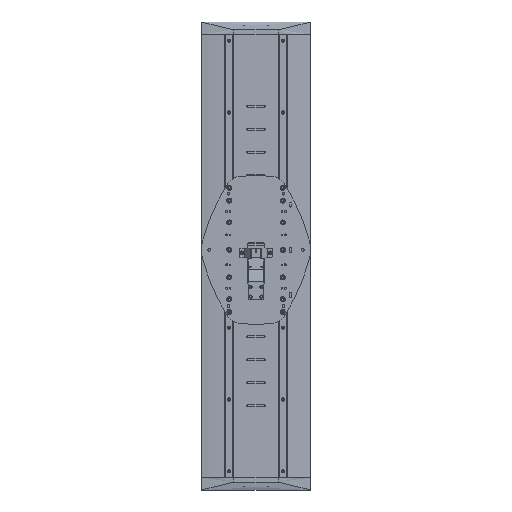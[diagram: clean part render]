
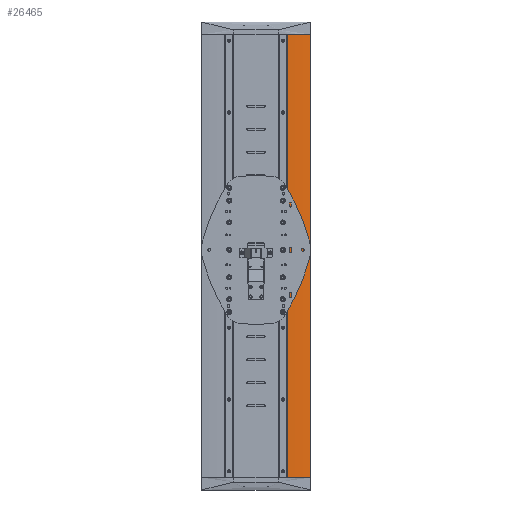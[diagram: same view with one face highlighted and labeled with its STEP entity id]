
A CAD part, top view. The second image highlights one B-rep face of the part: STEP entity #26465.
In plain terms, the highlighted cylindrical face has radius 976.591 mm (diameter 1953.18 mm), a partial arc.
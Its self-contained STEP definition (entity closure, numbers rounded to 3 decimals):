
#708 = DIRECTION ( 'NONE',  ( 0., -1., 0. ) ) ;
#1964 = ORIENTED_EDGE ( 'NONE', *, *, #14583, .T. ) ;
#4219 = LINE ( 'NONE', #6692, #5537 ) ;
#5141 = CARTESIAN_POINT ( 'NONE',  ( 100.53, -710., 11.818 ) ) ;
#5537 = VECTOR ( 'NONE', #35474, 1000. ) ;
#6222 = CARTESIAN_POINT ( 'NONE',  ( 175., -710., 6.75 ) ) ;
#6692 = CARTESIAN_POINT ( 'NONE',  ( 100.53, -3000., 11.818 ) ) ;
#10376 = ORIENTED_EDGE ( 'NONE', *, *, #53489, .F. ) ;
#13373 = AXIS2_PLACEMENT_3D ( 'NONE', #37199, #53353, #24639 ) ;
#14583 = EDGE_CURVE ( 'NONE', #30893, #52440, #4219, .T. ) ;
#17838 = LINE ( 'NONE', #25978, #24444 ) ;
#19961 = CYLINDRICAL_SURFACE ( 'NONE', #13373, 976.591 ) ;
#19990 = DIRECTION ( 'NONE',  ( 0., -1., 0. ) ) ;
#21356 = AXIS2_PLACEMENT_3D ( 'NONE', #40800, #19990, #45344 ) ;
#21521 = VERTEX_POINT ( 'NONE', #49998 ) ;
#22325 = CARTESIAN_POINT ( 'NONE',  ( 100.53, 710., 11.818 ) ) ;
#24078 = EDGE_CURVE ( 'NONE', #30893, #21521, #47380, .T. ) ;
#24444 = VECTOR ( 'NONE', #708, 1000. ) ;
#24639 = DIRECTION ( 'NONE',  ( 0., 0., -1. ) ) ;
#25978 = CARTESIAN_POINT ( 'NONE',  ( 175., -3000., 6.75 ) ) ;
#26465 = ADVANCED_FACE ( 'NONE', ( #46256 ), #19961, .T. ) ;
#30893 = VERTEX_POINT ( 'NONE', #22325 ) ;
#33378 = EDGE_LOOP ( 'NONE', ( #10376, #44242, #1964, #54309 ) ) ;
#33630 = AXIS2_PLACEMENT_3D ( 'NONE', #43015, #47197, #34755 ) ;
#33766 = CIRCLE ( 'NONE', #21356, 976.591 ) ;
#34755 = DIRECTION ( 'NONE',  ( 0., 0., -1. ) ) ;
#35474 = DIRECTION ( 'NONE',  ( 0., -1., 0. ) ) ;
#37199 = CARTESIAN_POINT ( 'NONE',  ( 71.5, -3000., -964.341 ) ) ;
#40800 = CARTESIAN_POINT ( 'NONE',  ( 71.5, -710., -964.341 ) ) ;
#43015 = CARTESIAN_POINT ( 'NONE',  ( 71.5, 710., -964.341 ) ) ;
#44242 = ORIENTED_EDGE ( 'NONE', *, *, #24078, .F. ) ;
#45344 = DIRECTION ( 'NONE',  ( 0., 0., -1. ) ) ;
#46256 = FACE_OUTER_BOUND ( 'NONE', #33378, .T. ) ;
#47197 = DIRECTION ( 'NONE',  ( 0., 1., 0. ) ) ;
#47380 = CIRCLE ( 'NONE', #33630, 976.591 ) ;
#49109 = EDGE_CURVE ( 'NONE', #50968, #52440, #33766, .T. ) ;
#49998 = CARTESIAN_POINT ( 'NONE',  ( 175., 710., 6.75 ) ) ;
#50968 = VERTEX_POINT ( 'NONE', #6222 ) ;
#52440 = VERTEX_POINT ( 'NONE', #5141 ) ;
#53353 = DIRECTION ( 'NONE',  ( 0., -1., 0. ) ) ;
#53489 = EDGE_CURVE ( 'NONE', #21521, #50968, #17838, .T. ) ;
#54309 = ORIENTED_EDGE ( 'NONE', *, *, #49109, .F. ) ;
